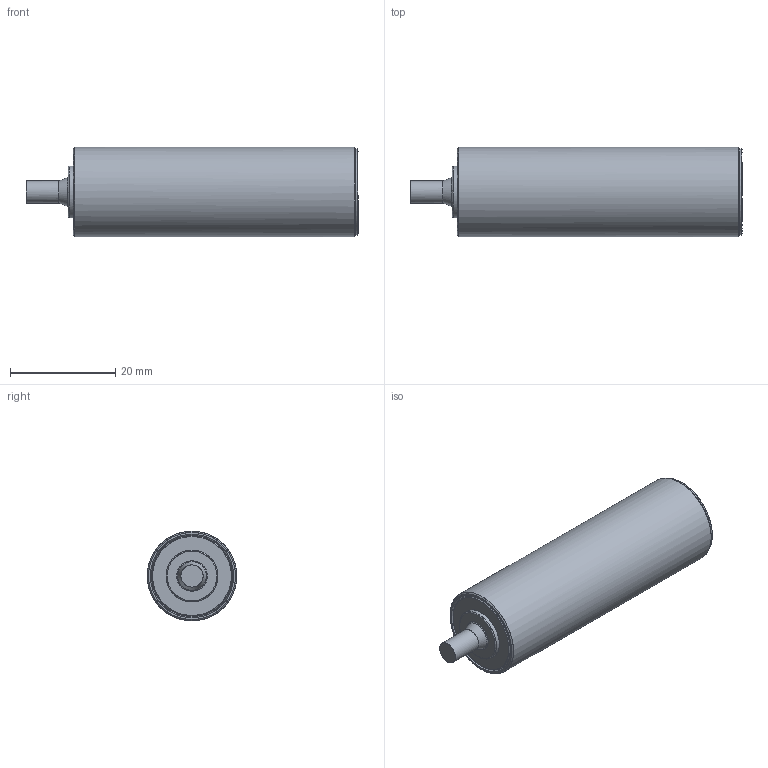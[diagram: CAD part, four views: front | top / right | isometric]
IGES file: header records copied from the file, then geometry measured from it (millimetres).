
Start section: C
Global section: file name: IFBR 17xx7T1_L-9.igs; native system:  By UGS Corp.; preprocessor: XPlus GENERIC/IGES 3.0; author: Author; organization: Title; date: 20120727.081312; units: millimetre
Bounding box: 62.96 x 16.99 x 17 mm (x, y, z)
Surface area: 3545.6 mm2 (no closed solid volume)
Topology: 0 solids, 0 shells, 22 faces, 114 edges, 114 vertices
Faces by surface type: bspline 22
